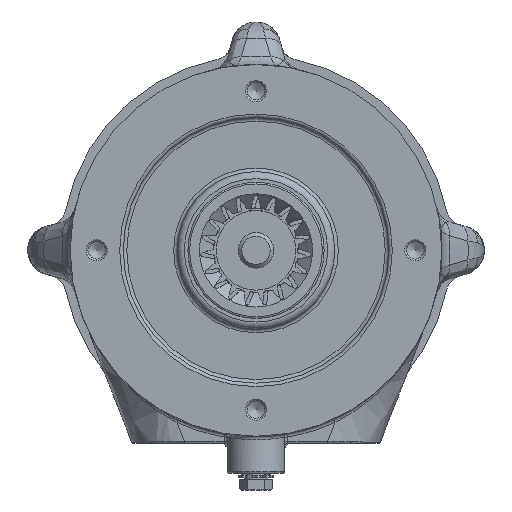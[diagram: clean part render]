
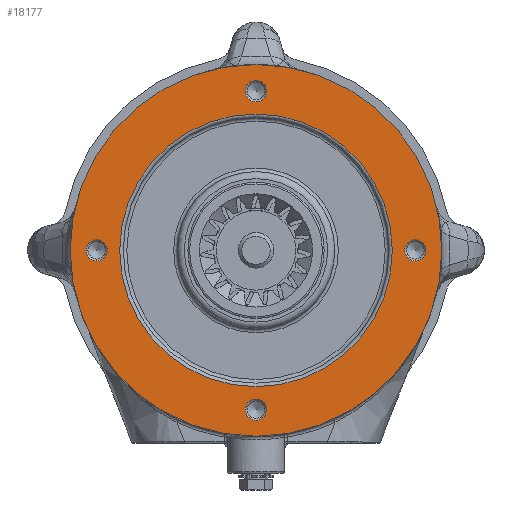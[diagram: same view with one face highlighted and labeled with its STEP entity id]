
A CAD part, left-side view. The second image highlights one B-rep face of the part: STEP entity #18177.
In plain terms, the highlighted planar face has unit normal (-1, 0, 0).
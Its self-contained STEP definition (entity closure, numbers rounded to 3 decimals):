
#733=FACE_BOUND('',#3626,.T.);
#734=FACE_BOUND('',#3627,.T.);
#735=FACE_BOUND('',#3628,.T.);
#736=FACE_BOUND('',#3629,.T.);
#737=FACE_BOUND('',#3630,.T.);
#1798=PLANE('',#19287);
#2586=FACE_OUTER_BOUND('',#3625,.T.);
#3625=EDGE_LOOP('',(#12629));
#3626=EDGE_LOOP('',(#12630));
#3627=EDGE_LOOP('',(#12631));
#3628=EDGE_LOOP('',(#12632));
#3629=EDGE_LOOP('',(#12633));
#3630=EDGE_LOOP('',(#12634));
#6539=CIRCLE('',#19246,52.5);
#6568=CIRCLE('',#19285,38.5);
#6570=CIRCLE('',#19288,3.);
#6571=CIRCLE('',#19289,3.);
#6572=CIRCLE('',#19290,3.);
#6573=CIRCLE('',#19291,3.);
#7894=VERTEX_POINT('',#27139);
#7959=VERTEX_POINT('',#27437);
#7960=VERTEX_POINT('',#27441);
#7961=VERTEX_POINT('',#27443);
#7962=VERTEX_POINT('',#27445);
#7963=VERTEX_POINT('',#27447);
#9716=EDGE_CURVE('',#7894,#7894,#6539,.T.);
#9790=EDGE_CURVE('',#7959,#7959,#6568,.T.);
#9792=EDGE_CURVE('',#7960,#7960,#6570,.T.);
#9793=EDGE_CURVE('',#7961,#7961,#6571,.T.);
#9794=EDGE_CURVE('',#7962,#7962,#6572,.T.);
#9795=EDGE_CURVE('',#7963,#7963,#6573,.T.);
#12629=ORIENTED_EDGE('',*,*,#9716,.F.);
#12630=ORIENTED_EDGE('',*,*,#9792,.T.);
#12631=ORIENTED_EDGE('',*,*,#9793,.T.);
#12632=ORIENTED_EDGE('',*,*,#9794,.T.);
#12633=ORIENTED_EDGE('',*,*,#9795,.T.);
#12634=ORIENTED_EDGE('',*,*,#9790,.F.);
#18177=ADVANCED_FACE('',(#2586,#733,#734,#735,#736,#737),#1798,.T.);
#19246=AXIS2_PLACEMENT_3D('',#27141,#21608,#21609);
#19285=AXIS2_PLACEMENT_3D('',#27438,#21707,#21708);
#19287=AXIS2_PLACEMENT_3D('',#27440,#21711,#21712);
#19288=AXIS2_PLACEMENT_3D('',#27442,#21713,#21714);
#19289=AXIS2_PLACEMENT_3D('',#27444,#21715,#21716);
#19290=AXIS2_PLACEMENT_3D('',#27446,#21717,#21718);
#19291=AXIS2_PLACEMENT_3D('',#27448,#21719,#21720);
#21608=DIRECTION('center_axis',(1.,0.,0.));
#21609=DIRECTION('ref_axis',(0.,-1.,0.));
#21707=DIRECTION('center_axis',(-1.,0.,0.));
#21708=DIRECTION('ref_axis',(0.,1.,0.));
#21711=DIRECTION('center_axis',(-1.,0.,0.));
#21712=DIRECTION('ref_axis',(0.,0.,-1.));
#21713=DIRECTION('center_axis',(1.,0.,0.));
#21714=DIRECTION('ref_axis',(0.,0.,-1.));
#21715=DIRECTION('center_axis',(1.,0.,0.));
#21716=DIRECTION('ref_axis',(0.,-1.,0.));
#21717=DIRECTION('center_axis',(1.,0.,0.));
#21718=DIRECTION('ref_axis',(0.,0.,1.));
#21719=DIRECTION('center_axis',(1.,0.,0.));
#21720=DIRECTION('ref_axis',(0.,1.,0.));
#27139=CARTESIAN_POINT('',(-102.,52.5,0.));
#27141=CARTESIAN_POINT('Origin',(-102.,0.,0.));
#27437=CARTESIAN_POINT('',(-102.,0.,-38.5));
#27438=CARTESIAN_POINT('Origin',(-102.,0.,0.));
#27440=CARTESIAN_POINT('Origin',(-102.,-45.,0.));
#27441=CARTESIAN_POINT('',(-102.,45.,3.));
#27442=CARTESIAN_POINT('Origin',(-102.,45.,0.));
#27443=CARTESIAN_POINT('',(-102.,3.,-45.));
#27444=CARTESIAN_POINT('Origin',(-102.,0.,-45.));
#27445=CARTESIAN_POINT('',(-102.,-45.,-3.));
#27446=CARTESIAN_POINT('Origin',(-102.,-45.,0.));
#27447=CARTESIAN_POINT('',(-102.,-3.,45.));
#27448=CARTESIAN_POINT('Origin',(-102.,0.,45.));
